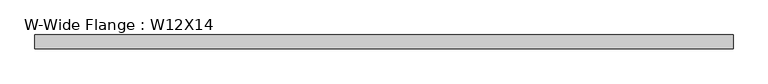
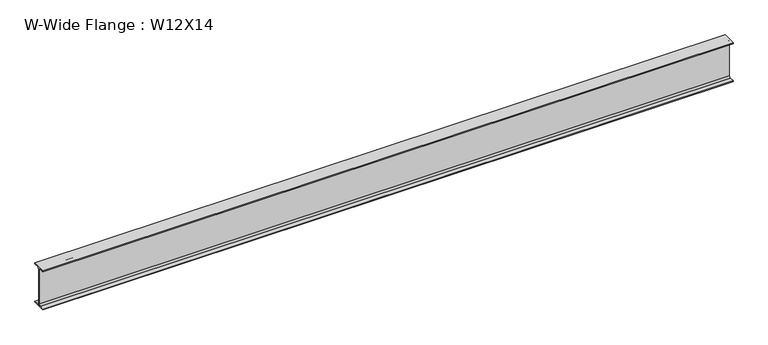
"""IFC4 building model written with IfcOpenShell, lengths in millimetres: beam geometry, W-Wide Flange : W12X14."""

from ifc_helpers import new_model, si_unit, point, frame, frame_2d, origin, place, context, project, spatial, polyline, circle_curve, trimmed, segment, composite_curve, outline, extrude, source, transform, mapped, element, save


def w_wide_flange_w12x14_94fda763(model_context):
    return source(origin(), model_context, "Body", "SweptSolid", [
        extrude(outline(composite_curve([segment(polyline([(50.419, -145.415), (50.419, -151.13), (-50.419, -151.13), (-50.419, -145.415), (-15.875, -145.415)]), True, "CONTINUOUS"), segment(trimmed(circle_curve(frame_2d((-15.875, -132.08)), 13.335), [point((-15.875, -145.415))], [point((-2.54, -132.08))], True, "CARTESIAN"), True, "CONTINUOUS"), segment(polyline([(-2.54, -132.08), (-2.54, 132.08)]), True, "CONTINUOUS"), segment(trimmed(circle_curve(frame_2d((-15.875, 132.08)), 13.335), [point((-2.54, 132.08))], [point((-15.875, 145.415))], True, "CARTESIAN"), True, "CONTINUOUS"), segment(polyline([(-15.875, 145.415), (-50.419, 145.415), (-50.419, 151.13), (50.419, 151.13), (50.419, 145.415), (15.875, 145.415)]), True, "CONTINUOUS"), segment(trimmed(circle_curve(frame_2d((15.875, 132.08)), 13.335), [point((15.875, 145.415))], [point((2.54, 132.08))], True, "CARTESIAN"), True, "CONTINUOUS"), segment(polyline([(2.54, 132.08), (2.54, -132.08)]), True, "CONTINUOUS"), segment(trimmed(circle_curve(frame_2d((15.875, -132.08)), 13.335), [point((2.54, -132.08))], [point((15.875, -145.415))], True, "CARTESIAN"), True, "CONTINUOUS"), segment(polyline([(15.875, -145.415), (50.419, -145.415)]), True, "CONTINUOUS")], self_intersect=False)), frame((-2535.2375, 0.0, 0.0), z_axis=(1.0, 0.0, 0.0), x_axis=(0.0, 1.0, 0.0)), (0.0, 0.0, 1.0), 5070.475),
    ])


if __name__ == "__main__":
    model = new_model("IFC4")
    model_context = context("Model", 3, world=origin())
    ifc_project = project(units=[si_unit("LENGTHUNIT", "METRE", prefix="MILLI")], contexts=[model_context])
    site = spatial("IfcSite", under=ifc_project)
    building = spatial("IfcBuilding", under=site)
    placement = place(None, origin())
    w_wide_flange_w12x14_shape = w_wide_flange_w12x14_94fda763(model_context)
    element("IfcBeam", 1, ObjectType="W-Wide Flange : W12X14", at=placement, inside=building, context=model_context, shape_type="MappedRepresentation", body=[
        mapped(w_wide_flange_w12x14_shape, transform((0.0, 0.0, 0.0), x_axis=(1.0, 0.0, 0.0), y_axis=(0.0, 1.0, 0.0), z_axis=(0.0, 0.0, 1.0))),
    ])
    save(model, "model.ifc")
